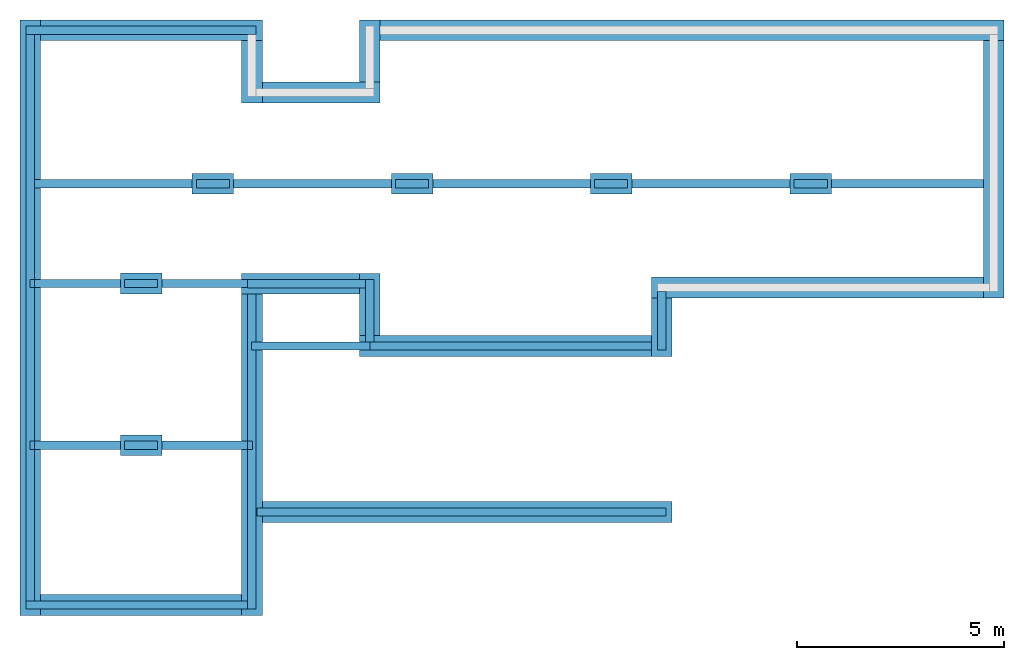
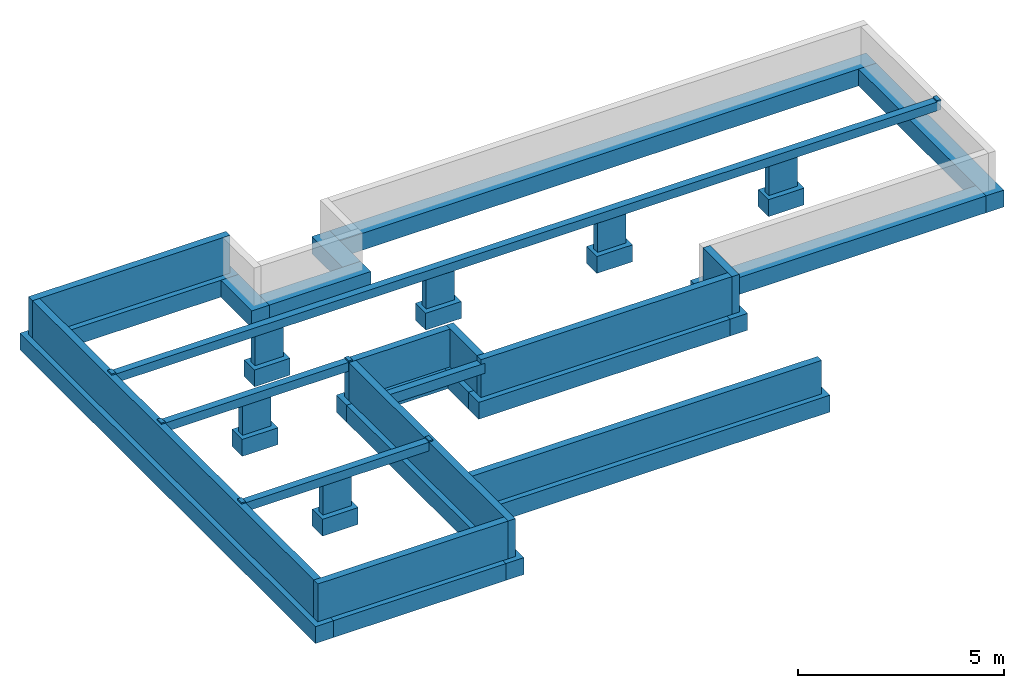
# One storey, part 1 of 2: 15 footings, 9 walls, 6 columns, 6 slabs, 4 beams.
"""IFC2X3 building model written with IfcOpenShell, lengths in metres."""

from ifc_helpers import new_model, entity, si_unit, converted_unit, derived_unit, direction, frame, frame_2d, origin, origin_2d_with_axis, place, context, subcontext, project, spatial, polyline, rectangle, extrude, clip, bounded_halfspace, faceted_brep, source, transform, mapped, material, layer, layer_set, layer_usage, type_object, type_shapes, element, save


model = new_model("IFC2X3")

# Units and contexts
model_context = context("Model", 3, precision=1e-05, world=origin(), true_north=direction((6.12303176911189e-17, 1.0)))
body_context = subcontext(model_context, "Body", "Model", "MODEL_VIEW")
ifc_project = project(units=[si_unit("LENGTHUNIT", "METRE"), si_unit("AREAUNIT", "SQUARE_METRE"), si_unit("VOLUMEUNIT", "CUBIC_METRE"), converted_unit("PLANEANGLEUNIT", "DEGREE", entity("IfcRatioMeasure", 0.0174532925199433), si_unit("PLANEANGLEUNIT", "RADIAN"), dimensions=[0, 0, 0, 0, 0, 0, 0]), si_unit("MASSUNIT", "GRAM", prefix="KILO"), derived_unit("MASSDENSITYUNIT", [(si_unit("MASSUNIT", "GRAM", prefix="KILO"), 1), (si_unit("LENGTHUNIT", "METRE"), -3)]), si_unit("TIMEUNIT", "SECOND"), si_unit("FREQUENCYUNIT", "HERTZ"), si_unit("THERMODYNAMICTEMPERATUREUNIT", "DEGREE_CELSIUS"), derived_unit("THERMALTRANSMITTANCEUNIT", [(si_unit("MASSUNIT", "GRAM", prefix="KILO"), 1), (si_unit("THERMODYNAMICTEMPERATUREUNIT", "KELVIN"), -1), (si_unit("TIMEUNIT", "SECOND"), -3)]), derived_unit("VOLUMETRICFLOWRATEUNIT", [(si_unit("LENGTHUNIT", "METRE"), 3), (si_unit("TIMEUNIT", "SECOND"), -1)]), si_unit("ELECTRICCURRENTUNIT", "AMPERE"), si_unit("ELECTRICVOLTAGEUNIT", "VOLT"), si_unit("POWERUNIT", "WATT"), si_unit("FORCEUNIT", "NEWTON", prefix="KILO"), si_unit("ILLUMINANCEUNIT", "LUX"), si_unit("LUMINOUSFLUXUNIT", "LUMEN"), si_unit("LUMINOUSINTENSITYUNIT", "CANDELA"), derived_unit("USERDEFINED", [(si_unit("MASSUNIT", "GRAM", prefix="KILO"), -1), (si_unit("LENGTHUNIT", "METRE"), -2), (si_unit("TIMEUNIT", "SECOND"), 3), (si_unit("LUMINOUSFLUXUNIT", "LUMEN"), 1)]), derived_unit("LINEARVELOCITYUNIT", [(si_unit("LENGTHUNIT", "METRE"), 1), (si_unit("TIMEUNIT", "SECOND"), -1)]), si_unit("PRESSUREUNIT", "PASCAL"), derived_unit("USERDEFINED", [(si_unit("LENGTHUNIT", "METRE"), -2), (si_unit("MASSUNIT", "GRAM", prefix="KILO"), 1), (si_unit("TIMEUNIT", "SECOND"), -2)])], contexts=[model_context])

# Site, building, storey
site_placement = place(None, origin())
site = spatial("IfcSite", under=ifc_project, at=site_placement, Name="Default", CompositionType="ELEMENT")
building_placement = place(site_placement, origin())
building = spatial("IfcBuilding", under=site, at=building_placement, CompositionType="ELEMENT")
storey_placement = place(building_placement, frame((0.0, 0.0, -1.43)))
storey = spatial("IfcBuildingStorey", under=building, at=storey_placement, Name="1 - Fondations", CompositionType="ELEMENT", Elevation=-1.43)

# Footings
ifc_material_1 = material(Name="Maçonnerie - Béton")
footing_1_placement = place(storey_placement, origin())
element("IfcFooting", 1, at=footing_1_placement, inside=storey, material=ifc_material_1, Name="Semelle filante:Soubassement 15 cm/15 cm x 50 cm", ObjectType="Semelle filante:Soubassement 15 cm/15 cm x 50 cm", PredefinedType="STRIP_FOOTING", context=body_context, shape_type="SweptSolid", body=[
    extrude(rectangle(XDim=14.35, YDim=0.499999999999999, at=frame_2d((0.0, 0.0833333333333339), x_axis=(1.0, 0.0))), frame((-9.73288913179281, -0.406944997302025, -0.5), z_axis=(0.0, 0.0, 1.0), x_axis=(0.0, 1.0, 0.0)), (0.0, 0.0, 1.0), 0.5),
])
footing_2_placement = place(storey_placement, origin())
element("IfcFooting", 2, at=footing_2_placement, inside=storey, material=ifc_material_1, Name="Semelle filante:Soubassement 15 cm/15 cm x 50 cm", ObjectType="Semelle filante:Soubassement 15 cm/15 cm x 50 cm", PredefinedType="STRIP_FOOTING", context=body_context, shape_type="SweptSolid", body=[
    extrude(rectangle(XDim=5.34, YDim=0.5, at=frame_2d((0.434, -0.0499999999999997), x_axis=(1.0, 0.0))), frame((-6.4622224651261, 6.46805500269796, -0.5), z_axis=(0.0, 0.0, 1.0), x_axis=(-1.0, 0.0, 0.0)), (0.0, 0.0, 1.0), 0.5),
])
footing_3_placement = place(storey_placement, origin())
element("IfcFooting", 3, at=footing_3_placement, inside=storey, material=ifc_material_1, Name="Semelle filante:Soubassement 15 cm/15 cm x 50 cm", ObjectType="Semelle filante:Soubassement 15 cm/15 cm x 50 cm", PredefinedType="STRIP_FOOTING", context=body_context, shape_type="SweptSolid", body=[
    extrude(rectangle(XDim=1.5, YDim=0.5, at=frame_2d((0.0500000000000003, 0.0499999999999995), x_axis=(1.0, 0.0))), frame((-4.42622246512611, 5.46805500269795, -0.5), z_axis=(0.0, 0.0, 1.0), x_axis=(0.0, 1.0, 0.0)), (0.0, 0.0, 1.0), 0.5),
])
footing_4_placement = place(storey_placement, origin())
element("IfcFooting", 4, at=footing_4_placement, inside=storey, material=ifc_material_1, Name="Semelle filante:Soubassement 15 cm/15 cm x 50 cm", ObjectType="Semelle filante:Soubassement 15 cm/15 cm x 50 cm", PredefinedType="STRIP_FOOTING", context=body_context, shape_type="SweptSolid", body=[
    extrude(rectangle(XDim=2.84, YDim=0.499999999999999, at=frame_2d((0.184000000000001, 0.0500000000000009), x_axis=(1.0, 0.0))), frame((-2.62222246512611, 5.06805500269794, -0.5), z_axis=(0.0, 0.0, 1.0), x_axis=(-1.0, 0.0, 0.0)), (0.0, 0.0, 1.0), 0.5),
])
footing_5_placement = place(storey_placement, origin())
element("IfcFooting", 5, at=footing_5_placement, inside=storey, material=ifc_material_1, Name="Semelle filante:Soubassement 15 cm/15 cm x 50 cm", ObjectType="Semelle filante:Soubassement 15 cm/15 cm x 50 cm", PredefinedType="STRIP_FOOTING", context=body_context, shape_type="SweptSolid", body=[
    extrude(rectangle(XDim=1.5, YDim=0.5, at=frame_2d((0.0500000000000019, -0.0500000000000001), x_axis=(1.0, 0.0))), frame((-1.5862224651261, 6.06805500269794, -0.5), z_axis=(0.0, 0.0, 1.0), x_axis=(0.0, -1.0, 0.0)), (0.0, 0.0, 1.0), 0.5),
])
footing_6_placement = place(storey_placement, origin())
element("IfcFooting", 6, at=footing_6_placement, inside=storey, material=ifc_material_1, Name="Semelle filante:Soubassement 15 cm/15 cm x 50 cm", ObjectType="Semelle filante:Soubassement 15 cm/15 cm x 50 cm", PredefinedType="STRIP_FOOTING", context=body_context, shape_type="SweptSolid", body=[
    extrude(rectangle(XDim=15.04, YDim=0.5, at=frame_2d((1.404, -0.0500000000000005), x_axis=(1.0, 0.0))), frame((7.5377775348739, 6.46805500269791, -0.5), z_axis=(0.0, 0.0, 1.0), x_axis=(-1.0, 0.0, 0.0)), (0.0, 0.0, 1.0), 0.5),
])
footing_7_placement = place(storey_placement, origin())
element("IfcFooting", 7, at=footing_7_placement, inside=storey, material=ifc_material_1, Name="Semelle filante:Soubassement 15 cm/15 cm x 50 cm", ObjectType="Semelle filante:Soubassement 15 cm/15 cm x 50 cm", PredefinedType="STRIP_FOOTING", context=body_context, shape_type="SweptSolid", body=[
    extrude(rectangle(XDim=6.19999999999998, YDim=0.499999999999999, at=frame_2d((0.519999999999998, -0.0499999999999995), x_axis=(1.0, 0.0))), frame((13.3537775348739, 2.64805500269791, -0.5), z_axis=(0.0, 0.0, 1.0), x_axis=(0.0, 1.0, 0.0)), (0.0, 0.0, 1.0), 0.5),
])
footing_8_placement = place(storey_placement, origin())
element("IfcFooting", 8, at=footing_8_placement, inside=storey, material=ifc_material_1, Name="Semelle filante:Soubassement 15 cm/15 cm x 50 cm", ObjectType="Semelle filante:Soubassement 15 cm/15 cm x 50 cm", PredefinedType="STRIP_FOOTING", context=body_context, shape_type="SweptSolid", body=[
    extrude(rectangle(XDim=8.00000000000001, YDim=0.5, at=frame_2d((0.700000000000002, 0.05), x_axis=(1.0, 0.0))), frame((8.4537775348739, 0.268055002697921, -0.5)), (0.0, 0.0, 1.0), 0.5),
])
footing_9_placement = place(storey_placement, origin())
element("IfcFooting", 9, at=footing_9_placement, inside=storey, material=ifc_material_1, Name="Semelle filante:Soubassement 15 cm/15 cm x 50 cm", ObjectType="Semelle filante:Soubassement 15 cm/15 cm x 50 cm", PredefinedType="STRIP_FOOTING", context=body_context, shape_type="SweptSolid", body=[
    extrude(rectangle(XDim=1.41, YDim=0.5, at=frame_2d((0.041, -0.0499999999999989), x_axis=(1.0, 0.0))), frame((5.3537775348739, -0.677944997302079, -0.5), z_axis=(0.0, 0.0, 1.0), x_axis=(0.0, 1.0, 0.0)), (0.0, 0.0, 1.0), 0.5),
])
footing_10_placement = place(storey_placement, origin())
element("IfcFooting", 10, at=footing_10_placement, inside=storey, material=ifc_material_1, Name="Semelle filante:Soubassement 15 cm/15 cm x 50 cm", ObjectType="Semelle filante:Soubassement 15 cm/15 cm x 50 cm", PredefinedType="STRIP_FOOTING", context=body_context, shape_type="SweptSolid", body=[
    extrude(rectangle(XDim=7.04000000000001, YDim=0.5, at=frame_2d((0.604000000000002, -0.05), x_axis=(1.0, 0.0))), frame((1.02977753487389, -1.04194499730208, -0.5)), (0.0, 0.0, 1.0), 0.5),
])
footing_11_placement = place(storey_placement, origin())
element("IfcFooting", 11, at=footing_11_placement, inside=storey, material=ifc_material_1, Name="Semelle filante:Soubassement 15 cm/15 cm x 50 cm", ObjectType="Semelle filante:Soubassement 15 cm/15 cm x 50 cm", PredefinedType="STRIP_FOOTING", context=body_context, shape_type="SweptSolid", body=[
    extrude(rectangle(XDim=1.5, YDim=0.5, at=frame_2d((0.0500000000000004, 0.0499999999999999), x_axis=(1.0, 0.0))), frame((-1.68622246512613, -0.0419449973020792, -0.5), z_axis=(0.0, 0.0, 1.0), x_axis=(0.0, -1.0, 0.0)), (0.0, 0.0, 1.0), 0.5),
])
footing_12_placement = place(storey_placement, origin())
element("IfcFooting", 12, at=footing_12_placement, inside=storey, material=ifc_material_1, Name="Semelle filante:Soubassement 15 cm/15 cm x 50 cm", ObjectType="Semelle filante:Soubassement 15 cm/15 cm x 50 cm", PredefinedType="STRIP_FOOTING", context=body_context, shape_type="SweptSolid", body=[
    extrude(rectangle(XDim=2.83999999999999, YDim=0.5, at=frame_2d((0.183999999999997, 0.05), x_axis=(1.0, 0.0))), frame((-3.49022246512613, 0.358055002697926, -0.5)), (0.0, 0.0, 1.0), 0.5),
])
footing_13_placement = place(storey_placement, origin())
element("IfcFooting", 13, at=footing_13_placement, inside=storey, material=ifc_material_1, Name="Semelle filante:Soubassement 15 cm/15 cm x 50 cm", ObjectType="Semelle filante:Soubassement 15 cm/15 cm x 50 cm", PredefinedType="STRIP_FOOTING", context=body_context, shape_type="SweptSolid", body=[
    extrude(rectangle(XDim=7.74, YDim=0.5, at=frame_2d((0.875328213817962, 0.0357142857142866), x_axis=(1.0, 0.0))), frame((-4.44050817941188, -4.58727321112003, -0.5), z_axis=(0.0, 0.0, 1.0), x_axis=(0.0, 1.0, 0.0)), (0.0, 0.0, 1.0), 0.5),
])
footing_14_placement = place(storey_placement, origin())
element("IfcFooting", 14, at=footing_14_placement, inside=storey, material=ifc_material_1, Name="Semelle filante:Soubassement 15 cm/15 cm x 50 cm", ObjectType="Semelle filante:Soubassement 15 cm/15 cm x 50 cm", PredefinedType="STRIP_FOOTING", context=body_context, shape_type="SweptSolid", body=[
    extrude(rectangle(XDim=4.84, YDim=0.5, at=frame_2d((4.44089209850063e-16, 5.41233724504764e-16), x_axis=(1.0, 0.0))), frame((-7.14622246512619, -7.33194499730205, -0.5)), (0.0, 0.0, 1.0), 0.5),
])
footing_15_placement = place(storey_placement, origin())
element("IfcFooting", 15, at=footing_15_placement, inside=storey, material=ifc_material_1, Name="Semelle filante:Soubassement 15 cm/15 cm x 50 cm", ObjectType="Semelle filante:Soubassement 15 cm/15 cm x 50 cm", PredefinedType="STRIP_FOOTING", context=body_context, shape_type="SweptSolid", body=[
    extrude(rectangle(XDim=9.879635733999, YDim=0.499999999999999, at=frame_2d((2.22044604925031e-15, 2.63677968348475e-16), x_axis=(1.0, 0.0))), frame((0.713595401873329, -5.09059374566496, -0.5), z_axis=(0.0, 0.0, 1.0), x_axis=(-1.0, 0.0, 0.0)), (0.0, 0.0, 1.0), 0.5),
])

# Columns
ifc_material_2 = material(Name="Maçonnerie - Béton coulé sur place")
column_type_1 = type_object("IfcColumnType", Name="800 x 200", PredefinedType="COLUMN", material=ifc_material_2)
shared_shape_1 = source(origin(), body_context, "Body", "SweptSolid", [
    extrude(rectangle(XDim=0.2, YDim=0.8, at=origin_2d_with_axis()), frame((-5.41622246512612, 2.81805500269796, -1.43), z_axis=(0.0, 0.0, 1.0), x_axis=(0.0, -1.0, 0.0)), (0.0, 0.0, 1.0), 0.85999999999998),
])
type_shapes(column_type_1, [shared_shape_1])
column_1_placement = place(storey_placement, frame((0.0, 0.0, 1.43)))
element("IfcColumn", 16, at=column_1_placement, inside=storey, type_object=column_type_1, material=ifc_material_2, Name="Béton - Rectangulaire - Poteau:800 x 200", ObjectType="800 x 200", context=body_context, shape_type="MappedRepresentation", body=[
    mapped(shared_shape_1, transform((0.0, 0.0, 0.0), scale=1.0)),
])
column_type_2 = type_object("IfcColumnType", Name="800 x 200", PredefinedType="COLUMN", material=ifc_material_2)
shared_shape_2 = source(origin(), body_context, "Body", "SweptSolid", [
    extrude(rectangle(XDim=0.2, YDim=0.8, at=frame_2d((0.0, 5.55111512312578e-17), x_axis=(1.0, 0.0))), frame((-0.616222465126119, 2.81805500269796, -1.43), z_axis=(0.0, 0.0, 1.0), x_axis=(0.0, -1.0, 0.0)), (0.0, 0.0, 1.0), 0.85999999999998),
])
type_shapes(column_type_2, [shared_shape_2])
column_2_placement = place(storey_placement, frame((0.0, 0.0, 1.43)))
element("IfcColumn", 17, at=column_2_placement, inside=storey, type_object=column_type_2, material=ifc_material_2, Name="Béton - Rectangulaire - Poteau:800 x 200", ObjectType="800 x 200", context=body_context, shape_type="MappedRepresentation", body=[
    mapped(shared_shape_2, transform((0.0, 0.0, 0.0), scale=1.0)),
])
column_type_3 = type_object("IfcColumnType", Name="800 x 200", PredefinedType="COLUMN", material=ifc_material_2)
shared_shape_3 = source(origin(), body_context, "Body", "SweptSolid", [
    extrude(rectangle(XDim=0.2, YDim=0.8, at=origin_2d_with_axis()), frame((4.18377753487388, 2.81805500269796, -1.43), z_axis=(0.0, 0.0, 1.0), x_axis=(0.0, -1.0, 0.0)), (0.0, 0.0, 1.0), 0.85999999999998),
])
type_shapes(column_type_3, [shared_shape_3])
column_3_placement = place(storey_placement, frame((0.0, 0.0, 1.43)))
element("IfcColumn", 18, at=column_3_placement, inside=storey, type_object=column_type_3, material=ifc_material_2, Name="Béton - Rectangulaire - Poteau:800 x 200", ObjectType="800 x 200", context=body_context, shape_type="MappedRepresentation", body=[
    mapped(shared_shape_3, transform((0.0, 0.0, 0.0), scale=1.0)),
])
column_type_4 = type_object("IfcColumnType", Name="800 x 200", PredefinedType="COLUMN", material=ifc_material_2)
shared_shape_4 = source(origin(), body_context, "Body", "SweptSolid", [
    extrude(rectangle(XDim=0.2, YDim=0.8, at=origin_2d_with_axis()), frame((8.99377753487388, 2.81805500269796, -1.43), z_axis=(0.0, 0.0, 1.0), x_axis=(0.0, -1.0, 0.0)), (0.0, 0.0, 1.0), 0.85999999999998),
])
type_shapes(column_type_4, [shared_shape_4])
column_4_placement = place(storey_placement, frame((0.0, 0.0, 1.43)))
element("IfcColumn", 19, at=column_4_placement, inside=storey, type_object=column_type_4, material=ifc_material_2, Name="Béton - Rectangulaire - Poteau:800 x 200", ObjectType="800 x 200", context=body_context, shape_type="MappedRepresentation", body=[
    mapped(shared_shape_4, transform((0.0, 0.0, 0.0), scale=1.0)),
])
column_type_5 = type_object("IfcColumnType", Name="800 x 200", PredefinedType="COLUMN", material=ifc_material_2)
shared_shape_5 = source(origin(), body_context, "Body", "SweptSolid", [
    extrude(rectangle(XDim=0.2, YDim=0.8, at=frame_2d((-3.46944695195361e-17, 0.0), x_axis=(1.0, 0.0))), frame((-7.14622246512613, 0.418055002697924, -1.43), z_axis=(0.0, 0.0, 1.0), x_axis=(0.0, -1.0, 0.0)), (0.0, 0.0, 1.0), 0.85999999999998),
])
type_shapes(column_type_5, [shared_shape_5])
column_5_placement = place(storey_placement, frame((0.0, 0.0, 1.43)))
element("IfcColumn", 20, at=column_5_placement, inside=storey, type_object=column_type_5, material=ifc_material_2, Name="Béton - Rectangulaire - Poteau:800 x 200", ObjectType="800 x 200", context=body_context, shape_type="MappedRepresentation", body=[
    mapped(shared_shape_5, transform((0.0, 0.0, 0.0), scale=1.0)),
])
column_type_6 = type_object("IfcColumnType", Name="800 x 200", PredefinedType="COLUMN", material=ifc_material_2)
shared_shape_6 = source(origin(), body_context, "Body", "SweptSolid", [
    extrude(rectangle(XDim=0.2, YDim=0.8, at=origin_2d_with_axis()), frame((-7.14622246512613, -3.48194499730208, -1.43), z_axis=(0.0, 0.0, 1.0), x_axis=(0.0, -1.0, 0.0)), (0.0, 0.0, 1.0), 0.85999999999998),
])
type_shapes(column_type_6, [shared_shape_6])
column_6_placement = place(storey_placement, frame((0.0, 0.0, 1.43)))
element("IfcColumn", 21, at=column_6_placement, inside=storey, type_object=column_type_6, material=ifc_material_2, Name="Béton - Rectangulaire - Poteau:800 x 200", ObjectType="800 x 200", context=body_context, shape_type="MappedRepresentation", body=[
    mapped(shared_shape_6, transform((0.0, 0.0, 0.0), scale=1.0)),
])

# Beams
ifc_material_3 = material(Name="Béton - Béton coulé sur place")
beam_type = type_object("IfcBeamType", Name="Poutre rectangulaire - Béton:200 x 300 mm", PredefinedType="BEAM")
beam_1_placement = place(storey_placement, frame((-9.82892246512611, 2.71805500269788, 0.859999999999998), z_axis=(0.0, 0.0, 1.0), x_axis=(-1.0, 0.0, 0.0)))
element("IfcBeam", 22, at=beam_1_placement, inside=storey, type_object=beam_type, material=ifc_material_3, Name="Poutre rectangulaire - Béton:200 x 300 mm", ObjectType="Poutre rectangulaire - Béton:200 x 300 mm", context=body_context, shape_type="Brep", body=[
    faceted_brep([(0.0, -0.200000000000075, 0.3), (0.0, -0.200000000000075, 0.0), (0.0, 0.0, 0.0), (0.0, 0.0, 0.3), (-23.2454, -0.200000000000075, 0.3), (-23.2454, 0.0, 0.3), (-23.2454, 0.0, 0.0), (-23.2454, -0.200000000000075, 0.0), (-0.112699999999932, -0.200000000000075, 0.3), (-0.112699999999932, -0.200000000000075, 0.259999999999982), (-23.1327, -0.200000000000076, 0.259999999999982), (-23.1327, -0.200000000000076, 0.3), (-19.2227, -0.200000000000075, 0.0), (-18.4227, -0.200000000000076, 0.0), (-14.4127, -0.200000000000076, 0.0), (-13.6127, -0.200000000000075, 0.0), (-9.61269999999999, -0.200000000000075, 0.0), (-8.81269999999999, -0.200000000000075, 0.0), (-4.81269999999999, -0.200000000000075, 0.0), (-4.01269999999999, -0.200000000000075, 0.0), (-19.2227, 0.0, 0.0), (-18.4227, 0.0, 0.0), (-14.4127, 0.0, 0.0), (-13.6127, 0.0, 0.0), (-9.61269999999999, 0.0, 0.0), (-8.81269999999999, 0.0, 0.0), (-4.81269999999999, 0.0, 0.0), (-4.01269999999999, 0.0, 0.0), (-23.1327, 0.0, 0.3), (-23.1327, 0.0, 0.259999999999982), (-0.112699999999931, 0.0, 0.259999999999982), (-0.112699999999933, 0.0, 0.3)], [[[0, 1, 2, 3]], [[4, 5, 6, 7]], [[1, 0, 8, 9, 10, 11, 4, 7, 12, 13, 14, 15, 16, 17, 18, 19]], [[2, 1, 19, 18, 17, 16, 15, 14, 13, 12, 7, 6, 20, 21, 22, 23, 24, 25, 26, 27]], [[3, 2, 27, 26, 25, 24, 23, 22, 21, 20, 6, 5, 28, 29, 30, 31]], [[0, 3, 31, 8]], [[9, 30, 29, 10]], [[30, 9, 8, 31]], [[10, 29, 28, 11]], [[5, 4, 11, 28]]]),
])
beam_2_placement = place(storey_placement, frame((-9.82892246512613, 0.318055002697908, 0.859999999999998), z_axis=(0.0, 0.0, 1.0), x_axis=(-1.0, 0.0, 0.0)))
element("IfcBeam", 23, at=beam_2_placement, inside=storey, type_object=beam_type, material=ifc_material_3, Name="Poutre rectangulaire - Béton:200 x 300 mm", ObjectType="Poutre rectangulaire - Béton:200 x 300 mm", context=body_context, shape_type="Brep", body=[
    faceted_brep([(0.0, -0.200000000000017, 0.3), (0.0, -0.200000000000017, 0.0), (0.0, 0.0, 0.0), (0.0, 0.0, 0.3), (-5.3654, 0.0, 0.3), (-5.3654, 0.0, 0.0), (-5.3654, -0.200000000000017, 0.0), (-5.3654, -0.200000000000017, 0.259999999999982), (-5.3654, -0.190000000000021, 0.259999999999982), (-5.3654, -0.190000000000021, 0.3), (-0.112699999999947, -0.200000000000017, 0.3), (-0.112699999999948, -0.200000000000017, 0.259999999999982), (-3.0827, -0.200000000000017, 0.0), (-2.2827, -0.200000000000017, 0.0), (-3.0827, 0.0, 0.0), (-2.2827, 0.0, 0.0), (-5.25270000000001, 0.0, 0.3), (-5.25270000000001, 0.0, 0.259999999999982), (-0.112699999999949, 0.0, 0.259999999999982), (-0.112699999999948, 0.0, 0.3), (-5.25270000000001, -0.190000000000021, 0.259999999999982), (-5.25270000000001, -0.190000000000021, 0.3)], [[[0, 1, 2, 3]], [[4, 5, 6, 7, 8, 9]], [[1, 0, 10, 11, 7, 6, 12, 13]], [[2, 1, 13, 12, 6, 5, 14, 15]], [[3, 2, 15, 14, 5, 4, 16, 17, 18, 19]], [[0, 3, 19, 10]], [[11, 18, 17, 20, 8, 7]], [[8, 20, 21, 9]], [[20, 17, 16, 21]], [[18, 11, 10, 19]], [[4, 9, 21, 16]]]),
])
beam_3_placement = place(storey_placement, frame((-1.63622246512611, -1.09194499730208, 0.98), z_axis=(0.0, 0.0, 1.0), x_axis=(-1.0, 0.0, 0.0)))
element("IfcBeam", 24, at=beam_3_placement, inside=storey, type_object=beam_type, material=ifc_material_3, Name="Poutre rectangulaire - Béton:200 x 300 mm", ObjectType="Poutre rectangulaire - Béton:200 x 300 mm", context=body_context, shape_type="SweptSolid", body=[
    extrude(rectangle(XDim=0.3, YDim=0.2, at=frame_2d((-2.77555756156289e-17, 9.27036225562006e-15), x_axis=(1.0, 0.0))), frame((-0.0126999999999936, 0.0, -0.150000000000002), z_axis=(1.0, 0.0, 0.0), x_axis=(0.0, 0.0, -1.0)), (0.0, 0.0, 1.0), 2.8654),
])
beam_4_placement = place(storey_placement, frame((-9.82892246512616, -3.58194499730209, 0.859999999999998), z_axis=(0.0, 0.0, 1.0), x_axis=(-1.0, 0.0, 0.0)))
element("IfcBeam", 25, at=beam_4_placement, inside=storey, type_object=beam_type, material=ifc_material_3, Name="Poutre rectangulaire - Béton:200 x 300 mm", ObjectType="Poutre rectangulaire - Béton:200 x 300 mm", context=body_context, shape_type="Brep", body=[
    faceted_brep([(0.0, -0.200000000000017, 0.3), (0.0, -0.200000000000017, 0.0), (0.0, 0.0, 0.0), (0.0, 0.0, 0.3), (-5.3654, -0.200000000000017, 0.3), (-5.3654, 0.0, 0.3), (-5.3654, 0.0, 0.0), (-5.3654, -0.200000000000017, 0.0), (-0.112699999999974, -0.200000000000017, 0.3), (-0.112699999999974, -0.200000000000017, 0.259999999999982), (-5.25270000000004, -0.200000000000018, 0.259999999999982), (-5.25270000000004, -0.200000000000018, 0.3), (-3.08270000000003, -0.200000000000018, 0.0), (-2.28270000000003, -0.200000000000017, 0.0), (-3.08270000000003, 0.0, 0.0), (-2.28270000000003, 0.0, 0.0), (-5.25270000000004, 0.0, 0.3), (-5.25270000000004, 0.0, 0.259999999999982), (-0.112699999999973, 0.0, 0.259999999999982), (-0.112699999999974, 0.0, 0.3)], [[[0, 1, 2, 3]], [[4, 5, 6, 7]], [[1, 0, 8, 9, 10, 11, 4, 7, 12, 13]], [[2, 1, 13, 12, 7, 6, 14, 15]], [[3, 2, 15, 14, 6, 5, 16, 17, 18, 19]], [[0, 3, 19, 8]], [[9, 18, 17, 10]], [[10, 17, 16, 11]], [[18, 9, 8, 19]], [[5, 4, 11, 16]]]),
])

# Slabs
slab_1_placement = place(storey_placement, origin())
element("IfcSlab", 26, at=slab_1_placement, inside=storey, material=ifc_material_3, Name="Base rectangulaire:100  x 50 x 50", ObjectType="Base rectangulaire:100  x 50 x 50", PredefinedType="BASESLAB", context=body_context, shape_type="SweptSolid", body=[
    extrude(rectangle(XDim=0.5, YDim=1.0, at=frame_2d((-2.63677968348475e-16, 5.27355936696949e-16), x_axis=(1.0, 0.0))), frame((-5.41622246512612, 2.81805500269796, -0.5), z_axis=(0.0, 0.0, 1.0), x_axis=(0.0, -1.0, 0.0)), (0.0, 0.0, 1.0), 0.5),
    extrude(rectangle(XDim=0.5, YDim=1.0, at=frame_2d((-2.63677968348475e-16, 5.27355936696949e-16), x_axis=(1.0, 0.0))), frame((-5.41622246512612, 2.81805500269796, -0.5), z_axis=(0.0, 0.0, 1.0), x_axis=(0.0, -1.0, 0.0)), (0.0, 0.0, 1.0), 0.5),
])
slab_2_placement = place(storey_placement, origin())
element("IfcSlab", 27, at=slab_2_placement, inside=storey, material=ifc_material_3, Name="Base rectangulaire:100  x 50 x 50", ObjectType="Base rectangulaire:100  x 50 x 50", PredefinedType="BASESLAB", context=body_context, shape_type="SweptSolid", body=[
    extrude(rectangle(XDim=0.5, YDim=1.0, at=frame_2d((-2.77555756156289e-16, 0.0), x_axis=(1.0, 0.0))), frame((-0.616222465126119, 2.81805500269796, -0.5), z_axis=(0.0, 0.0, 1.0), x_axis=(0.0, -1.0, 0.0)), (0.0, 0.0, 1.0), 0.5),
    extrude(rectangle(XDim=0.5, YDim=1.0, at=frame_2d((-2.77555756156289e-16, 0.0), x_axis=(1.0, 0.0))), frame((-0.616222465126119, 2.81805500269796, -0.5), z_axis=(0.0, 0.0, 1.0), x_axis=(0.0, -1.0, 0.0)), (0.0, 0.0, 1.0), 0.5),
])
slab_3_placement = place(storey_placement, origin())
element("IfcSlab", 28, at=slab_3_placement, inside=storey, material=ifc_material_3, Name="Base rectangulaire:100  x 50 x 50", ObjectType="Base rectangulaire:100  x 50 x 50", PredefinedType="BASESLAB", context=body_context, shape_type="SweptSolid", body=[
    extrude(rectangle(XDim=0.5, YDim=1.0, at=frame_2d((0.0, -5.27355936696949e-16), x_axis=(1.0, 0.0))), frame((-7.14622246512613, 0.418055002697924, -0.5), z_axis=(0.0, 0.0, 1.0), x_axis=(0.0, -1.0, 0.0)), (0.0, 0.0, 1.0), 0.5),
    extrude(rectangle(XDim=0.5, YDim=1.0, at=frame_2d((0.0, -5.27355936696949e-16), x_axis=(1.0, 0.0))), frame((-7.14622246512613, 0.418055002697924, -0.5), z_axis=(0.0, 0.0, 1.0), x_axis=(0.0, -1.0, 0.0)), (0.0, 0.0, 1.0), 0.5),
])
slab_4_placement = place(storey_placement, origin())
element("IfcSlab", 29, at=slab_4_placement, inside=storey, material=ifc_material_3, Name="Base rectangulaire:100  x 50 x 50", ObjectType="Base rectangulaire:100  x 50 x 50", PredefinedType="BASESLAB", context=body_context, shape_type="SweptSolid", body=[
    extrude(rectangle(XDim=0.5, YDim=1.0, at=frame_2d((2.63677968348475e-16, -5.27355936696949e-16), x_axis=(1.0, 0.0))), frame((-7.14622246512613, -3.48194499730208, -0.5), z_axis=(0.0, 0.0, 1.0), x_axis=(0.0, -1.0, 0.0)), (0.0, 0.0, 1.0), 0.5),
    extrude(rectangle(XDim=0.5, YDim=1.0, at=frame_2d((2.63677968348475e-16, -5.27355936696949e-16), x_axis=(1.0, 0.0))), frame((-7.14622246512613, -3.48194499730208, -0.5), z_axis=(0.0, 0.0, 1.0), x_axis=(0.0, -1.0, 0.0)), (0.0, 0.0, 1.0), 0.5),
])
slab_5_placement = place(storey_placement, origin())
element("IfcSlab", 30, at=slab_5_placement, inside=storey, material=ifc_material_3, Name="Base rectangulaire:100  x 50 x 50", ObjectType="Base rectangulaire:100  x 50 x 50", PredefinedType="BASESLAB", context=body_context, shape_type="SweptSolid", body=[
    extrude(rectangle(XDim=0.5, YDim=1.0, at=frame_2d((-2.63677968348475e-16, -2.4980018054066e-16), x_axis=(1.0, 0.0))), frame((4.18377753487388, 2.81805500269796, -0.5), z_axis=(0.0, 0.0, 1.0), x_axis=(0.0, -1.0, 0.0)), (0.0, 0.0, 1.0), 0.5),
    extrude(rectangle(XDim=0.5, YDim=1.0, at=frame_2d((-2.63677968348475e-16, -2.4980018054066e-16), x_axis=(1.0, 0.0))), frame((4.18377753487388, 2.81805500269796, -0.5), z_axis=(0.0, 0.0, 1.0), x_axis=(0.0, -1.0, 0.0)), (0.0, 0.0, 1.0), 0.5),
])
slab_6_placement = place(storey_placement, origin())
element("IfcSlab", 31, at=slab_6_placement, inside=storey, material=ifc_material_3, Name="Base rectangulaire:100  x 50 x 50", ObjectType="Base rectangulaire:100  x 50 x 50", PredefinedType="BASESLAB", context=body_context, shape_type="SweptSolid", body=[
    extrude(rectangle(XDim=0.5, YDim=1.0, at=frame_2d((-2.63677968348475e-16, 5.27355936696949e-16), x_axis=(1.0, 0.0))), frame((8.99377753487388, 2.81805500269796, -0.5), z_axis=(0.0, 0.0, 1.0), x_axis=(0.0, -1.0, 0.0)), (0.0, 0.0, 1.0), 0.5),
    extrude(rectangle(XDim=0.5, YDim=1.0, at=frame_2d((-2.63677968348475e-16, 5.27355936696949e-16), x_axis=(1.0, 0.0))), frame((8.99377753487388, 2.81805500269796, -0.5), z_axis=(0.0, 0.0, 1.0), x_axis=(0.0, -1.0, 0.0)), (0.0, 0.0, 1.0), 0.5),
])

# Walls
ifc_material_4 = material(Name="Blocs béton manufacturés")
ifc_layer_1 = layer(ifc_material_4, 0.2)
ifc_layer_set_1 = layer_set([ifc_layer_1], Name="Mur de base:Parpaing 20 Enduit bitumineux")
ifc_layer_usage_1 = layer_usage(ifc_layer_set_1, "AXIS2", "NEGATIVE", 0.1)
wall_type_1 = type_object("IfcWallType", Name="Mur de base:Parpaing 20 Enduit bitumineux", PredefinedType="STANDARD", material=ifc_layer_set_1)
wall_1_placement = place(storey_placement, frame((-9.9162224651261, 6.51805500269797, 0.0)))
element("IfcWallStandardCase", 32, at=wall_1_placement, inside=storey, type_object=wall_type_1, material=ifc_layer_usage_1, Name="Mur de base:Parpaing 20 Enduit bitumineux", ObjectType="Mur de base:Parpaing 20 Enduit bitumineux", context=body_context, shape_type="SweptSolid", body=[
    extrude(rectangle(XDim=5.54, YDim=0.2, at=frame_2d((2.77, -6.93889390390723e-17), x_axis=(-1.0, 0.0))), origin(), (0.0, 0.0, 1.0), 1.11999999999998),
])
ifc_layer_usage_2 = layer_usage(ifc_layer_set_1, "AXIS2", "NEGATIVE", 0.1)
wall_2_placement = place(storey_placement, frame((5.4037775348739, 0.218055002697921, 0.0), z_axis=(0.0, 0.0, 1.0), x_axis=(0.0, -1.0, 0.0)))
element("IfcWallStandardCase", 33, at=wall_2_placement, inside=storey, type_object=wall_type_1, material=ifc_layer_usage_2, Name="Mur de base:Parpaing 20 Enduit bitumineux", ObjectType="Mur de base:Parpaing 20 Enduit bitumineux", context=body_context, shape_type="SweptSolid", body=[
    extrude(rectangle(XDim=1.41, YDim=0.2, at=frame_2d((0.705, 0.0), x_axis=(-1.0, 0.0))), origin(), (0.0, 0.0, 1.0), 1.11999999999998),
])
ifc_layer_usage_3 = layer_usage(ifc_layer_set_1, "AXIS2", "NEGATIVE", 0.1)
wall_3_placement = place(storey_placement, frame((5.3037775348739, -1.09194499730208, 0.0), z_axis=(0.0, 0.0, 1.0), x_axis=(-1.0, 0.0, 0.0)))
element("IfcWallStandardCase", 34, at=wall_3_placement, inside=storey, type_object=wall_type_1, material=ifc_layer_usage_3, Name="Mur de base:Parpaing 20 Enduit bitumineux", ObjectType="Mur de base:Parpaing 20 Enduit bitumineux", context=body_context, shape_type="SweptSolid", body=[
    extrude(rectangle(XDim=7.04000000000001, YDim=0.2, at=frame_2d((3.52000000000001, 0.0), x_axis=(-1.0, 0.0))), origin(), (0.0, 0.0, 1.0), 1.11999999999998),
])
ifc_layer_usage_4 = layer_usage(ifc_layer_set_1, "AXIS2", "NEGATIVE", 0.1)
wall_4_placement = place(storey_placement, frame((-1.63622246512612, -0.99194499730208, 0.0), z_axis=(0.0, 0.0, 1.0), x_axis=(0.0, 1.0, 0.0)))
element("IfcWallStandardCase", 35, at=wall_4_placement, inside=storey, type_object=wall_type_1, material=ifc_layer_usage_4, Name="Mur de base:Parpaing 20 Enduit bitumineux", ObjectType="Mur de base:Parpaing 20 Enduit bitumineux", context=body_context, shape_type="SweptSolid", body=[
    extrude(rectangle(XDim=1.5, YDim=0.2, at=frame_2d((0.75, 1.38777878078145e-16), x_axis=(-1.0, 0.0))), origin(), (0.0, 0.0, 1.0), 1.11999999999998),
])
ifc_layer_usage_5 = layer_usage(ifc_layer_set_1, "AXIS2", "NEGATIVE", 0.1)
wall_5_placement = place(storey_placement, frame((-1.73622246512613, 0.40805500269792, 0.0), z_axis=(0.0, 0.0, 1.0), x_axis=(-1.0, 0.0, 0.0)))
element("IfcWallStandardCase", 36, at=wall_5_placement, inside=storey, type_object=wall_type_1, material=ifc_layer_usage_5, Name="Mur de base:Parpaing 20 Enduit bitumineux", ObjectType="Mur de base:Parpaing 20 Enduit bitumineux", context=body_context, shape_type="SweptSolid", body=[
    extrude(rectangle(XDim=2.83999999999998, YDim=0.2, at=frame_2d((1.41999999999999, 1.38777878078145e-17), x_axis=(-1.0, 0.0))), origin(), (0.0, 0.0, 1.0), 1.11999999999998),
])
ifc_layer_usage_6 = layer_usage(ifc_layer_set_1, "AXIS2", "NEGATIVE", 0.1)
wall_6_placement = place(storey_placement, frame((-4.47622246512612, 0.30805500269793, 0.0), z_axis=(0.0, 0.0, 1.0), x_axis=(0.0, -1.0, 0.0)))
element("IfcWallStandardCase", 37, at=wall_6_placement, inside=storey, type_object=wall_type_1, material=ifc_layer_usage_6, Name="Mur de base:Parpaing 20 Enduit bitumineux", ObjectType="Mur de base:Parpaing 20 Enduit bitumineux", context=body_context, shape_type="SweptSolid", body=[
    extrude(rectangle(XDim=7.74, YDim=0.2, at=frame_2d((3.87, 0.0), x_axis=(-1.0, 0.0))), origin(), (0.0, 0.0, 1.0), 1.11999999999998),
])
ifc_layer_usage_7 = layer_usage(ifc_layer_set_1, "AXIS2", "NEGATIVE", 0.1)
wall_7_placement = place(storey_placement, frame((-4.57622246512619, -7.33194499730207, 0.0), z_axis=(0.0, 0.0, 1.0), x_axis=(-1.0, 0.0, 0.0)))
element("IfcWallStandardCase", 38, at=wall_7_placement, inside=storey, type_object=wall_type_1, material=ifc_layer_usage_7, Name="Mur de base:Parpaing 20 Enduit bitumineux", ObjectType="Mur de base:Parpaing 20 Enduit bitumineux", context=body_context, shape_type="SweptSolid", body=[
    extrude(rectangle(XDim=5.34, YDim=0.2, at=frame_2d((2.67, -3.46944695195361e-17), x_axis=(-1.0, 0.0))), origin(), (0.0, 0.0, 1.0), 1.11999999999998),
])
ifc_layer_usage_8 = layer_usage(ifc_layer_set_1, "AXIS2", "NEGATIVE", 0.1)
wall_8_placement = place(storey_placement, frame((-9.81622246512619, -7.23194499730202, 0.0), z_axis=(0.0, 0.0, 1.0), x_axis=(0.0, 1.0, 0.0)))
element("IfcWallStandardCase", 39, at=wall_8_placement, inside=storey, type_object=wall_type_1, material=ifc_layer_usage_8, Name="Mur de base:Parpaing 20 Enduit bitumineux", ObjectType="Mur de base:Parpaing 20 Enduit bitumineux", context=body_context, shape_type="SweptSolid", body=[
    extrude(rectangle(XDim=13.65, YDim=0.200000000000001, at=frame_2d((6.825, 2.26207941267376e-15), x_axis=(-1.0, 0.0))), origin(), (0.0, 0.0, 1.0), 1.11999999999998),
])
ifc_layer_2 = layer(ifc_material_4, 0.2)
ifc_layer_set_2 = layer_set([ifc_layer_2], Name="Mur de base:BBM 20 cm x 50 cm x 20 cm")
ifc_layer_usage_9 = layer_usage(ifc_layer_set_2, "AXIS2", "NEGATIVE", 0.1)
wall_type_2 = type_object("IfcWallType", Name="Mur de base:BBM 20 cm x 50 cm x 20 cm", PredefinedType="STANDARD", material=ifc_layer_set_2)
wall_9_placement = place(storey_placement, frame((5.50341326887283, -5.09059374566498, 0.0), z_axis=(0.0, 0.0, 1.0), x_axis=(-1.0, 0.0, 0.0)))
element("IfcWallStandardCase", 40, at=wall_9_placement, inside=storey, type_object=wall_type_2, material=ifc_layer_usage_9, Name="Mur de base:BBM 20 cm x 50 cm x 20 cm", ObjectType="Mur de base:BBM 20 cm x 50 cm x 20 cm", context=body_context, shape_type="Clipping", body=[
    clip(extrude(rectangle(XDim=9.859635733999, YDim=0.2, at=frame_2d((4.9298178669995, 0.0), x_axis=(-1.0, 0.0))), origin(), (0.0, 0.0, 1.0), 0.98999999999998), bounded_halfspace(frame((0.0, -0.1, 0.98999999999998), z_axis=(0.0, 0.0, -1.0), x_axis=(0.0, -1.0, 0.0)), True, frame((0.0, -0.1, 0.98999999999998)), polyline([(0.0, 0.0), (9.859635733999, 0.0), (9.859635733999, 0.2), (0.0, 0.2), (0.0, 0.0)]))),
])

save(model, "model.ifc")
